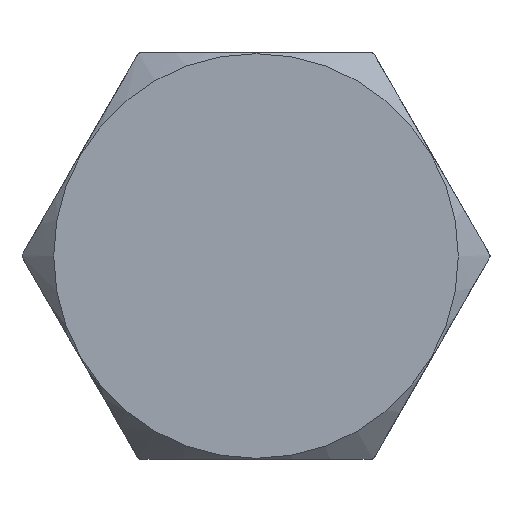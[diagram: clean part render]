
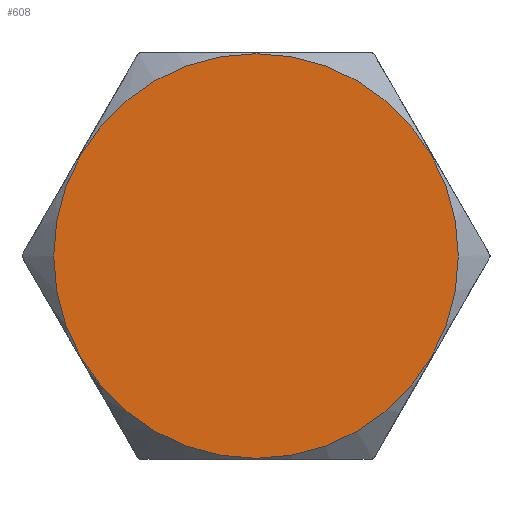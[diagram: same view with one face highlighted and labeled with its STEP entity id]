
A CAD part, front view. The second image highlights one B-rep face of the part: STEP entity #608.
In plain terms, the highlighted planar face has unit normal (0, -1, 0).
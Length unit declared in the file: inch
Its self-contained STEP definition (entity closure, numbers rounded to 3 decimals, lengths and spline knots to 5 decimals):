
#41=PLANE('',#698);
#143=FACE_OUTER_BOUND('',#181,.T.);
#181=EDGE_LOOP('',(#567));
#223=CIRCLE('',#695,0.498);
#294=VERTEX_POINT('',#1196);
#383=EDGE_CURVE('',#294,#294,#223,.T.);
#567=ORIENTED_EDGE('',*,*,#383,.F.);
#608=ADVANCED_FACE('',(#143),#41,.T.);
#695=AXIS2_PLACEMENT_3D('',#1197,#870,#871);
#698=AXIS2_PLACEMENT_3D('',#1201,#877,#878);
#870=DIRECTION('center_axis',(0.,1.,0.));
#871=DIRECTION('ref_axis',(0.,0.,1.));
#877=DIRECTION('center_axis',(0.,-1.,0.));
#878=DIRECTION('ref_axis',(0.,0.,-1.));
#1196=CARTESIAN_POINT('',(0.,0.,-0.498));
#1197=CARTESIAN_POINT('Origin',(0.,0.,0.));
#1201=CARTESIAN_POINT('Origin',(0.,0.,0.));
